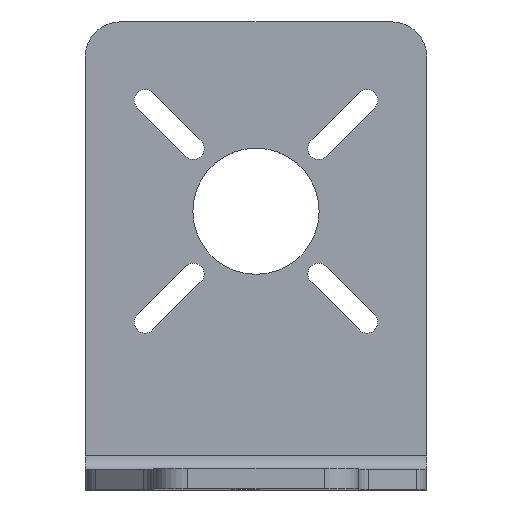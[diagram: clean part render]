
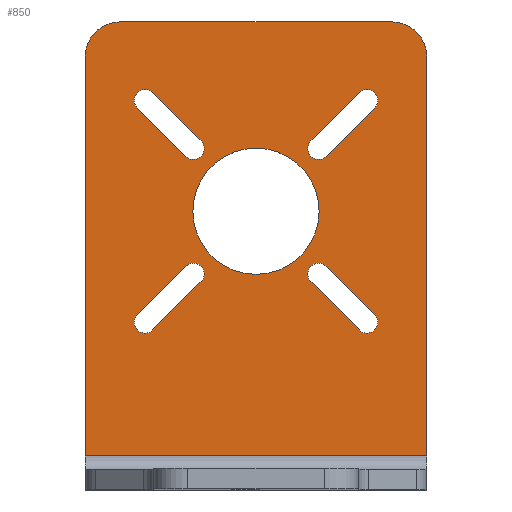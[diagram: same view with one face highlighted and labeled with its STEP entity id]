
A CAD part, top view. The second image highlights one B-rep face of the part: STEP entity #850.
In plain terms, the highlighted planar face has unit normal (0, 0, 1).
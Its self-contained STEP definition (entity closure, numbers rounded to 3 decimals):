
#17=FACE_BOUND('',#163,.T.);
#18=FACE_BOUND('',#164,.T.);
#19=FACE_BOUND('',#165,.T.);
#20=FACE_BOUND('',#166,.T.);
#21=FACE_BOUND('',#167,.T.);
#27=CIRCLE('',#888,1.6);
#29=CIRCLE('',#892,1.6);
#31=CIRCLE('',#896,1.6);
#33=CIRCLE('',#900,1.6);
#35=CIRCLE('',#904,1.6);
#37=CIRCLE('',#908,1.6);
#59=CIRCLE('',#945,5.);
#61=CIRCLE('',#948,5.);
#62=CIRCLE('',#949,1.6);
#63=CIRCLE('',#950,1.6);
#64=CIRCLE('',#951,9.25);
#117=FACE_OUTER_BOUND('',#162,.T.);
#162=EDGE_LOOP('',(#699,#700,#701,#702,#703,#704));
#163=EDGE_LOOP('',(#705,#706,#707,#708));
#164=EDGE_LOOP('',(#709,#710,#711,#712));
#165=EDGE_LOOP('',(#713,#714,#715,#716));
#166=EDGE_LOOP('',(#717,#718,#719,#720));
#167=EDGE_LOOP('',(#721));
#188=LINE('',#1228,#269);
#193=LINE('',#1242,#274);
#196=LINE('',#1252,#277);
#201=LINE('',#1266,#282);
#204=LINE('',#1276,#285);
#209=LINE('',#1290,#290);
#237=LINE('',#1376,#318);
#247=LINE('',#1407,#328);
#251=LINE('',#1421,#332);
#252=LINE('',#1423,#333);
#253=LINE('',#1426,#334);
#254=LINE('',#1430,#335);
#269=VECTOR('',#975,10.);
#274=VECTOR('',#988,10.);
#277=VECTOR('',#999,10.);
#282=VECTOR('',#1012,10.);
#285=VECTOR('',#1023,10.);
#290=VECTOR('',#1036,10.);
#318=VECTOR('',#1114,10.);
#328=VECTOR('',#1146,10.);
#332=VECTOR('',#1160,10.);
#333=VECTOR('',#1163,10.);
#334=VECTOR('',#1164,10.);
#335=VECTOR('',#1167,10.);
#350=VERTEX_POINT('',#1226);
#351=VERTEX_POINT('',#1227);
#354=VERTEX_POINT('',#1235);
#356=VERTEX_POINT('',#1241);
#358=VERTEX_POINT('',#1250);
#359=VERTEX_POINT('',#1251);
#362=VERTEX_POINT('',#1259);
#364=VERTEX_POINT('',#1265);
#366=VERTEX_POINT('',#1274);
#367=VERTEX_POINT('',#1275);
#370=VERTEX_POINT('',#1283);
#372=VERTEX_POINT('',#1289);
#404=VERTEX_POINT('',#1373);
#405=VERTEX_POINT('',#1375);
#414=VERTEX_POINT('',#1404);
#415=VERTEX_POINT('',#1406);
#418=VERTEX_POINT('',#1414);
#420=VERTEX_POINT('',#1420);
#421=VERTEX_POINT('',#1424);
#422=VERTEX_POINT('',#1425);
#423=VERTEX_POINT('',#1427);
#424=VERTEX_POINT('',#1429);
#425=VERTEX_POINT('',#1432);
#432=EDGE_CURVE('',#350,#351,#188,.T.);
#436=EDGE_CURVE('',#351,#354,#27,.T.);
#439=EDGE_CURVE('',#354,#356,#193,.T.);
#442=EDGE_CURVE('',#356,#350,#29,.T.);
#444=EDGE_CURVE('',#358,#359,#196,.T.);
#448=EDGE_CURVE('',#359,#362,#31,.T.);
#451=EDGE_CURVE('',#362,#364,#201,.T.);
#454=EDGE_CURVE('',#364,#358,#33,.T.);
#456=EDGE_CURVE('',#366,#367,#204,.T.);
#460=EDGE_CURVE('',#367,#370,#35,.T.);
#463=EDGE_CURVE('',#370,#372,#209,.T.);
#466=EDGE_CURVE('',#372,#366,#37,.T.);
#506=EDGE_CURVE('',#404,#405,#237,.T.);
#522=EDGE_CURVE('',#414,#415,#247,.T.);
#526=EDGE_CURVE('',#418,#404,#59,.T.);
#529=EDGE_CURVE('',#420,#418,#251,.T.);
#530=EDGE_CURVE('',#415,#420,#61,.T.);
#531=EDGE_CURVE('',#405,#414,#252,.T.);
#532=EDGE_CURVE('',#421,#422,#253,.T.);
#533=EDGE_CURVE('',#422,#423,#62,.T.);
#534=EDGE_CURVE('',#423,#424,#254,.T.);
#535=EDGE_CURVE('',#424,#421,#63,.T.);
#536=EDGE_CURVE('',#425,#425,#64,.T.);
#699=ORIENTED_EDGE('',*,*,#526,.F.);
#700=ORIENTED_EDGE('',*,*,#529,.F.);
#701=ORIENTED_EDGE('',*,*,#530,.F.);
#702=ORIENTED_EDGE('',*,*,#522,.F.);
#703=ORIENTED_EDGE('',*,*,#531,.F.);
#704=ORIENTED_EDGE('',*,*,#506,.F.);
#705=ORIENTED_EDGE('',*,*,#439,.T.);
#706=ORIENTED_EDGE('',*,*,#442,.T.);
#707=ORIENTED_EDGE('',*,*,#432,.T.);
#708=ORIENTED_EDGE('',*,*,#436,.T.);
#709=ORIENTED_EDGE('',*,*,#451,.T.);
#710=ORIENTED_EDGE('',*,*,#454,.T.);
#711=ORIENTED_EDGE('',*,*,#444,.T.);
#712=ORIENTED_EDGE('',*,*,#448,.T.);
#713=ORIENTED_EDGE('',*,*,#463,.T.);
#714=ORIENTED_EDGE('',*,*,#466,.T.);
#715=ORIENTED_EDGE('',*,*,#456,.T.);
#716=ORIENTED_EDGE('',*,*,#460,.T.);
#717=ORIENTED_EDGE('',*,*,#532,.T.);
#718=ORIENTED_EDGE('',*,*,#533,.T.);
#719=ORIENTED_EDGE('',*,*,#534,.T.);
#720=ORIENTED_EDGE('',*,*,#535,.T.);
#721=ORIENTED_EDGE('',*,*,#536,.T.);
#815=PLANE('',#947);
#850=ADVANCED_FACE('',(#117,#17,#18,#19,#20,#21),#815,.T.);
#888=AXIS2_PLACEMENT_3D('',#1236,#981,#982);
#892=AXIS2_PLACEMENT_3D('',#1247,#993,#994);
#896=AXIS2_PLACEMENT_3D('',#1260,#1005,#1006);
#900=AXIS2_PLACEMENT_3D('',#1271,#1017,#1018);
#904=AXIS2_PLACEMENT_3D('',#1284,#1029,#1030);
#908=AXIS2_PLACEMENT_3D('',#1295,#1041,#1042);
#945=AXIS2_PLACEMENT_3D('',#1415,#1153,#1154);
#947=AXIS2_PLACEMENT_3D('',#1419,#1158,#1159);
#948=AXIS2_PLACEMENT_3D('',#1422,#1161,#1162);
#949=AXIS2_PLACEMENT_3D('',#1428,#1165,#1166);
#950=AXIS2_PLACEMENT_3D('',#1431,#1168,#1169);
#951=AXIS2_PLACEMENT_3D('',#1433,#1170,#1171);
#975=DIRECTION('',(0.707,-0.707,0.));
#981=DIRECTION('center_axis',(0.,0.,
-1.));
#982=DIRECTION('ref_axis',(-0.707,-0.707,0.));
#988=DIRECTION('',(-0.707,0.707,0.));
#993=DIRECTION('center_axis',(0.,0.,
-1.));
#994=DIRECTION('ref_axis',(0.707,0.707,0.));
#999=DIRECTION('',(-0.707,-0.707,0.));
#1005=DIRECTION('center_axis',(0.,0.,
-1.));
#1006=DIRECTION('ref_axis',(-0.707,0.707,0.));
#1012=DIRECTION('',(0.707,0.707,0.));
#1017=DIRECTION('center_axis',(0.,0.,
-1.));
#1018=DIRECTION('ref_axis',(0.707,-0.707,0.));
#1023=DIRECTION('',(-0.707,0.707,0.));
#1029=DIRECTION('center_axis',(0.,0.,
-1.));
#1030=DIRECTION('ref_axis',(0.707,0.707,0.));
#1036=DIRECTION('',(0.707,-0.707,0.));
#1041=DIRECTION('center_axis',(0.,0.,
-1.));
#1042=DIRECTION('ref_axis',(-0.707,-0.707,0.));
#1114=DIRECTION('',(0.,-1.,0.));
#1146=DIRECTION('',(0.,1.,0.));
#1153=DIRECTION('center_axis',(0.,0.,
-1.));
#1154=DIRECTION('ref_axis',(0.707,0.707,0.));
#1158=DIRECTION('center_axis',(0.,0.,
1.));
#1159=DIRECTION('ref_axis',(1.,0.,0.));
#1160=DIRECTION('',(1.,0.,0.));
#1161=DIRECTION('center_axis',(0.,0.,
-1.));
#1162=DIRECTION('ref_axis',(-0.707,0.707,0.));
#1163=DIRECTION('',(-1.,0.,0.));
#1164=DIRECTION('',(-0.707,-0.707,0.));
#1165=DIRECTION('center_axis',(0.,0.,
-1.));
#1166=DIRECTION('ref_axis',(-0.707,0.707,0.));
#1167=DIRECTION('',(0.707,0.707,0.));
#1168=DIRECTION('center_axis',(0.,0.,
-1.));
#1169=DIRECTION('ref_axis',(0.707,-0.707,0.));
#1170=DIRECTION('center_axis',(0.,0.,
-1.));
#1171=DIRECTION('ref_axis',(-1.,0.,0.));
#1226=CARTESIAN_POINT('',(-15.132,23.955,1.5));
#1227=CARTESIAN_POINT('',(-8.061,16.884,1.5));
#1228=CARTESIAN_POINT('',(-5.36,14.183,1.5));
#1235=CARTESIAN_POINT('',(-10.324,14.621,1.5));
#1236=CARTESIAN_POINT('Origin',(-9.192,15.752,1.5));
#1241=CARTESIAN_POINT('',(-17.395,21.692,1.5));
#1242=CARTESIAN_POINT('',(-4.088,8.385,1.5));
#1247=CARTESIAN_POINT('Origin',(-16.263,22.823,1.5));
#1250=CARTESIAN_POINT('',(17.395,21.692,1.5));
#1251=CARTESIAN_POINT('',(10.324,14.621,1.5));
#1252=CARTESIAN_POINT('',(7.623,11.92,1.5));
#1259=CARTESIAN_POINT('',(8.061,16.884,1.5));
#1260=CARTESIAN_POINT('Origin',(9.192,15.752,1.5));
#1265=CARTESIAN_POINT('',(15.132,23.955,1.5));
#1266=CARTESIAN_POINT('',(1.825,10.648,1.5));
#1271=CARTESIAN_POINT('Origin',(16.263,22.823,1.5));
#1274=CARTESIAN_POINT('',(15.132,-10.835,1.5));
#1275=CARTESIAN_POINT('',(8.061,-3.764,1.5));
#1276=CARTESIAN_POINT('',(8.64,-4.343,1.5));
#1283=CARTESIAN_POINT('',(10.324,-1.501,1.5));
#1284=CARTESIAN_POINT('Origin',(9.192,-2.632,1.5));
#1289=CARTESIAN_POINT('',(17.395,-8.572,1.5));
#1290=CARTESIAN_POINT('',(7.368,1.455,1.5));
#1295=CARTESIAN_POINT('Origin',(16.263,-9.703,1.5));
#1373=CARTESIAN_POINT('',(25.,29.3,1.5));
#1375=CARTESIAN_POINT('',(25.,-29.3,1.5));
#1376=CARTESIAN_POINT('',(25.,34.3,1.5));
#1404=CARTESIAN_POINT('',(-25.,-29.3,1.5));
#1406=CARTESIAN_POINT('',(-25.,29.3,1.5));
#1407=CARTESIAN_POINT('',(-25.,-34.3,1.5));
#1414=CARTESIAN_POINT('',(20.,34.3,1.5));
#1415=CARTESIAN_POINT('Origin',(20.,29.3,1.5));
#1419=CARTESIAN_POINT('Origin',(0.,0.,
1.5));
#1420=CARTESIAN_POINT('',(-20.,34.3,1.5));
#1421=CARTESIAN_POINT('',(-25.,34.3,1.5));
#1422=CARTESIAN_POINT('Origin',(-20.,29.3,1.5));
#1423=CARTESIAN_POINT('',(-12.5,-29.3,1.5));
#1424=CARTESIAN_POINT('',(-8.061,-3.764,1.5));
#1425=CARTESIAN_POINT('',(-15.132,-10.835,1.5));
#1426=CARTESIAN_POINT('',(-5.105,-0.808,1.5));
#1427=CARTESIAN_POINT('',(-17.395,-8.572,1.5));
#1428=CARTESIAN_POINT('Origin',(-16.263,-9.703,1.5));
#1429=CARTESIAN_POINT('',(-10.324,-1.501,1.5));
#1430=CARTESIAN_POINT('',(-10.903,-2.08,1.5));
#1431=CARTESIAN_POINT('Origin',(-9.192,-2.632,1.5));
#1432=CARTESIAN_POINT('',(9.25,6.56,1.5));
#1433=CARTESIAN_POINT('Origin',(0.,6.56,1.5));
